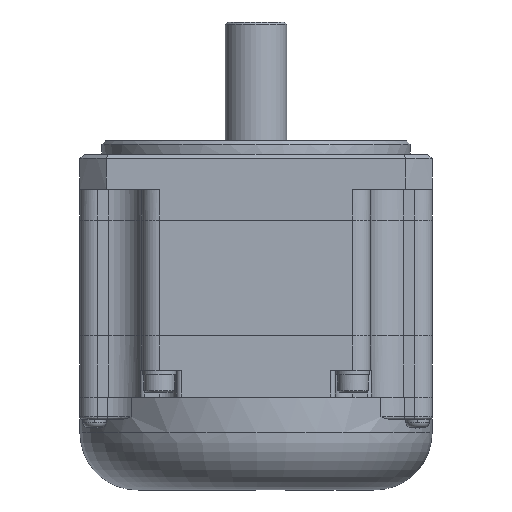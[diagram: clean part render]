
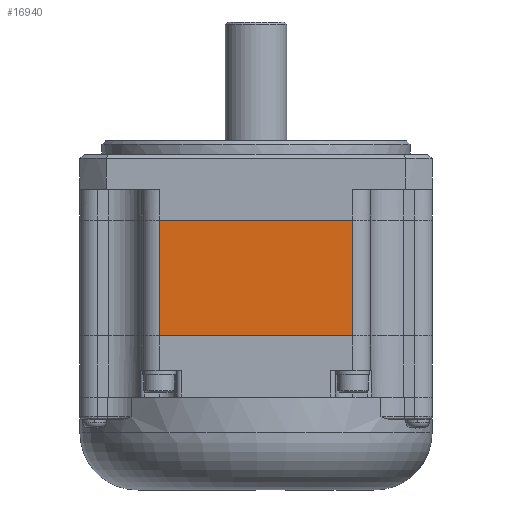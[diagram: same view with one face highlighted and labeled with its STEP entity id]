
A CAD part, front view. The second image highlights one B-rep face of the part: STEP entity #16940.
In plain terms, the highlighted planar face has unit normal (0, -1, 0).
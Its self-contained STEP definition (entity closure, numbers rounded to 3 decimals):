
#174 = FACE_OUTER_BOUND ( 'NONE', #17235, .T. ) ;
#3478 = CARTESIAN_POINT ( 'NONE',  ( -36.569, -8.449, -45.765 ) ) ;
#3479 = DIRECTION ( 'NONE',  ( 0., 0., 1. ) ) ;
#3480 = CARTESIAN_POINT ( 'NONE',  ( -36.569, -8.449, -11.165 ) ) ;
#3481 = DIRECTION ( 'NONE',  ( 1., 0., 0. ) ) ;
#3482 = CARTESIAN_POINT ( 'NONE',  ( -80.569, -8.449, -45.765 ) ) ;
#3483 = DIRECTION ( 'NONE',  ( 0., 0., -1. ) ) ;
#3484 = CARTESIAN_POINT ( 'NONE',  ( -24.565, -8.449, -37.465 ) ) ;
#3485 = DIRECTION ( 'NONE',  ( -1., 0., 0. ) ) ;
#5716 = PLANE ( 'NONE',  #15513 ) ;
#5717 = CARTESIAN_POINT ( 'NONE',  ( -40.193, -8.449, -50.85 ) ) ;
#5718 = DIRECTION ( 'NONE',  ( 0., -1., 0. ) ) ;
#5719 = DIRECTION ( 'NONE',  ( -1., 0., 0. ) ) ;
#10271 = ORIENTED_EDGE ( 'NONE', *, *, #13444, .T. ) ;
#10272 = ORIENTED_EDGE ( 'NONE', *, *, #13445, .F. ) ;
#10274 = ORIENTED_EDGE ( 'NONE', *, *, #13446, .T. ) ;
#10276 = ORIENTED_EDGE ( 'NONE', *, *, #13447, .F. ) ;
#12869 = VERTEX_POINT ( 'NONE', #20236 ) ;
#12870 = VERTEX_POINT ( 'NONE', #20237 ) ;
#12871 = VERTEX_POINT ( 'NONE', #20238 ) ;
#12872 = VERTEX_POINT ( 'NONE', #20239 ) ;
#13444 = EDGE_CURVE ( 'NONE', #12872, #12871, #21478, .T. ) ;
#13445 = EDGE_CURVE ( 'NONE', #12870, #12871, #21481, .T. ) ;
#13446 = EDGE_CURVE ( 'NONE', #12870, #12869, #21483, .T. ) ;
#13447 = EDGE_CURVE ( 'NONE', #12872, #12869, #21485, .T. ) ;
#15513 = AXIS2_PLACEMENT_3D ( 'NONE', #5717, #5718, #5719 ) ;
#16940 = ADVANCED_FACE ( 'NONE', ( #174 ), #5716, .T. ) ;
#17235 = EDGE_LOOP ( 'NONE', ( #10271, #10272, #10274, #10276 ) ) ;
#20236 = CARTESIAN_POINT ( 'NONE',  ( -80.569, -8.449, -37.465 ) ) ;
#20237 = CARTESIAN_POINT ( 'NONE',  ( -80.569, -8.449, -11.165 ) ) ;
#20238 = CARTESIAN_POINT ( 'NONE',  ( -36.569, -8.449, -11.165 ) ) ;
#20239 = CARTESIAN_POINT ( 'NONE',  ( -36.569, -8.449, -37.465 ) ) ;
#21478 = LINE ( 'NONE', #3478, #21480 ) ;
#21480 = VECTOR ( 'NONE', #3479, 1000. ) ;
#21481 = LINE ( 'NONE', #3480, #21482 ) ;
#21482 = VECTOR ( 'NONE', #3481, 1000. ) ;
#21483 = LINE ( 'NONE', #3482, #21484 ) ;
#21484 = VECTOR ( 'NONE', #3483, 1000. ) ;
#21485 = LINE ( 'NONE', #3484, #21486 ) ;
#21486 = VECTOR ( 'NONE', #3485, 1000. ) ;
